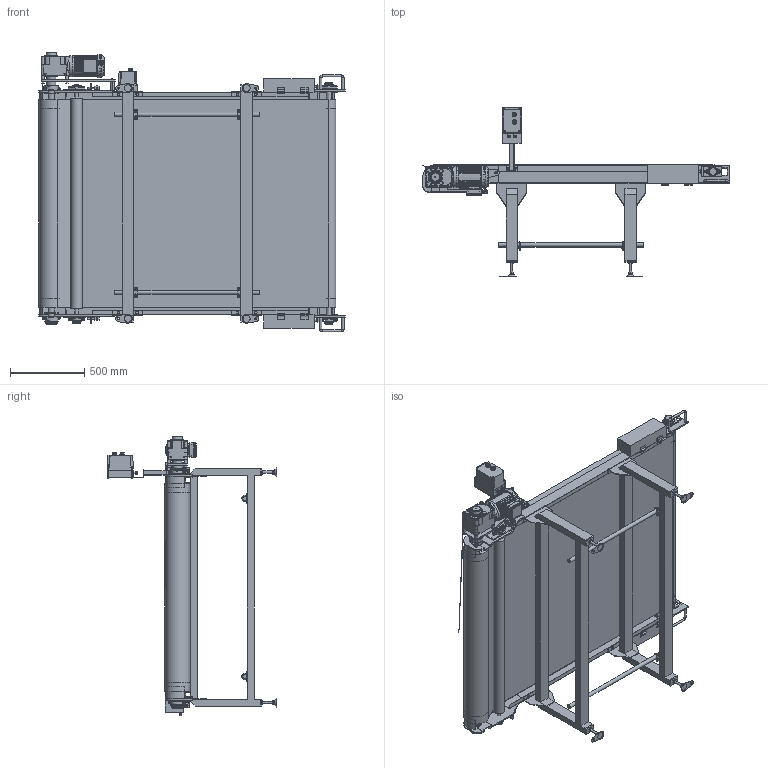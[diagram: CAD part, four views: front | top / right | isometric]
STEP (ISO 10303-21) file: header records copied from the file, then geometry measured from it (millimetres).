
FILE_DESCRIPTION( (''), '2;1');
FILE_NAME ('WEB-FB4H-375-1400-200-L-K-60.stp','2025-10-16T11:55:54',(''),(''),'spGate 20.6.2 (****-****-****-****)','','');
FILE_SCHEMA (('AUTOMOTIVE_DESIGN'));
Length unit declared in the file: millimetre
Products named in the file (93): WEB-FB4H-375-1400-200-L-K-60; TEMP_X_T-prt0; TEMP_X_T-prt1; TEMP_X_T-prt2; TEMP_X_T-prt3; TEMP_X_T-prt4; TEMP_X_T-prt5; TEMP_X_T-prt6; TEMP_X_T-prt7; TEMP_X_T-prt8; TEMP_X_T-prt9; TEMP_X_T-prt10; TEMP_X_T-prt11; TEMP_X_T-prt12; TEMP_X_T-prt13; TEMP_X_T-prt14; TEMP_X_T-prt15; TEMP_X_T-prt16; TEMP_X_T-prt17; TEMP_X_T-prt18; TEMP_X_T-prt19; TEMP_X_T-prt20; TEMP_X_T-prt21; TEMP_X_T-prt22; TEMP_X_T-prt23; TEMP_X_T-prt24; TEMP_X_T-prt25; TEMP_X_T-prt26; TEMP_X_T-prt27; TEMP_X_T-prt28; TEMP_X_T-prt29; TEMP_X_T-prt30; TEMP_X_T-prt31; TEMP_X_T-prt32; TEMP_X_T-prt33; TEMP_X_T-prt34; TEMP_X_T-prt35; TEMP_X_T-prt36; TEMP_X_T-prt37; TEMP_X_T-prt38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
Assembly tree (92 placements, depth 2):
  WEB-FB4H-375-1400-200-L-K-60
    TEMP_X_T-prt0
    TEMP_X_T-prt1
    TEMP_X_T-prt2
    TEMP_X_T-prt3
    TEMP_X_T-prt4
    TEMP_X_T-prt5
    TEMP_X_T-prt6
    TEMP_X_T-prt7
    TEMP_X_T-prt8
    TEMP_X_T-prt9
    TEMP_X_T-prt10
    TEMP_X_T-prt11
    TEMP_X_T-prt12
    TEMP_X_T-prt13
    TEMP_X_T-prt14
    TEMP_X_T-prt15
    TEMP_X_T-prt16
    TEMP_X_T-prt17
    TEMP_X_T-prt18
    TEMP_X_T-prt19
    TEMP_X_T-prt20
    TEMP_X_T-prt21
    TEMP_X_T-prt22
    TEMP_X_T-prt23
    TEMP_X_T-prt24
    TEMP_X_T-prt25
    TEMP_X_T-prt26
    TEMP_X_T-prt27
    TEMP_X_T-prt28
    TEMP_X_T-prt29
    TEMP_X_T-prt30
    TEMP_X_T-prt31
    TEMP_X_T-prt32
    TEMP_X_T-prt33
    TEMP_X_T-prt34
    TEMP_X_T-prt35
    TEMP_X_T-prt36
    TEMP_X_T-prt37
    TEMP_X_T-prt38
    TEMP_X_T-prt39
    TEMP_X_T-prt40
    TEMP_X_T-prt41
    TEMP_X_T-prt42
    TEMP_X_T-prt43
    TEMP_X_T-prt44
    TEMP_X_T-prt45
    TEMP_X_T-prt46
    TEMP_X_T-prt47
    TEMP_X_T-prt48
    TEMP_X_T-prt49
    TEMP_X_T-prt50
    TEMP_X_T-prt51
    TEMP_X_T-prt52
    TEMP_X_T-prt53
    TEMP_X_T-prt54
    TEMP_X_T-prt55
    TEMP_X_T-prt56
    TEMP_X_T-prt57
    TEMP_X_T-prt58
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Bounding box: 2065 x 1141 x 1886 mm (x, y, z)
Volume: 205823323.4 mm3; surface area: 23861836.2 mm2
Topology: 92 solids, 96 shells, 3332 faces, 8581 edges, 5785 vertices
Faces by surface type: plane 1982, cylinder 806, bspline 536, sphere 8
Full cylindrical faces by diameter (mm): 4.134 x4, 4.5 x12, 5 x8, 5.359 x6, 6 x18, 6.35 x6, 6.4 x2, 7 x16, 8 x16, 8.2 x1, 8.5 x4, 9.2 x4, 9.5 x4, 10 x14, 10.106 x8, 10.5 x4, 10.6 x4, 12 x16, 12.2 x5, 12.3 x3, 12.5 x6, 13 x4, 14 x14, 15 x2, 15.4 x8, 16 x21, 17 x16, 18 x1, 19 x3, 19.4 x4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
Entity records: 188493 total; most frequent: CARTESIAN_POINT 39147, ORIENTED_EDGE 17086, DIRECTION 15643, COLOUR_RGB 11967, PRESENTATION_STYLE_ASSIGNMENT 11967, STYLED_ITEM 11967, EDGE_CURVE 8543, DRAUGHTING_PRE_DEFINED_CURVE_FONT 8543
